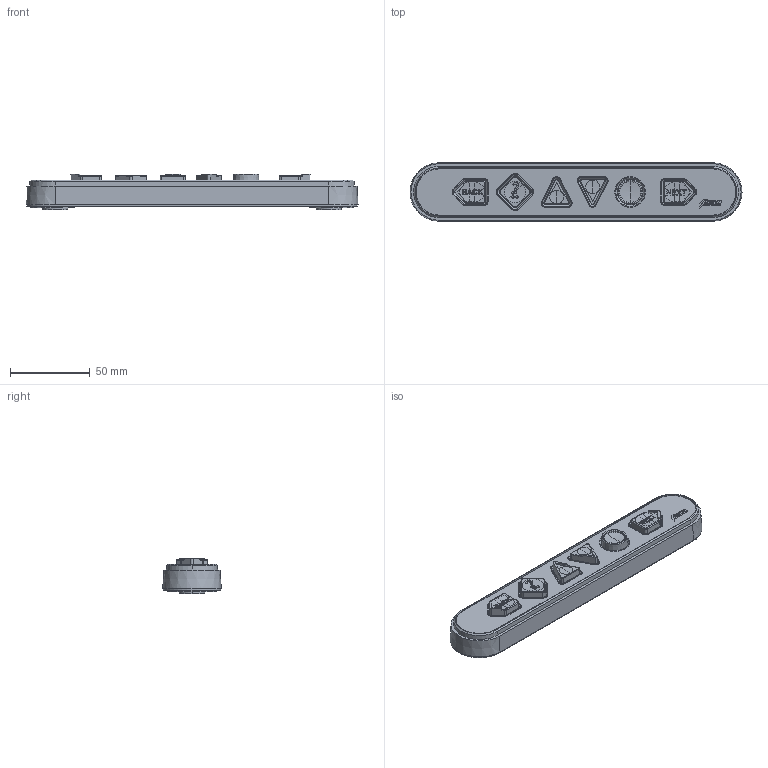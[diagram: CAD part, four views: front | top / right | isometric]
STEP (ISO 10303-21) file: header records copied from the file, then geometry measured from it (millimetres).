
FILE_DESCRIPTION (( 'STEP AP214' ), '1' );
FILE_NAME ('EZB6-43000~1.STEP', '2016-09-30T10:02:13', ( '' ), ( '' ), 'SwSTEP 2.0', 'SolidWorks 2016', '' );
FILE_SCHEMA (( 'AUTOMOTIVE_DESIGN' ));
Length unit declared in the file: millimetre
Products named in the file (1): EZB6-43000~1
Bounding box: 207.6 x 36.6 x 22.51 mm (x, y, z)
Surface area: 43046.6 mm2 (no closed solid volume)
Topology: 0 solids, 32 shells, 869 faces, 3114 edges, 2286 vertices
Faces by surface type: plane 441, cone 193, bspline 110, cylinder 76, torus 28, sphere 21
Entity records: 49232 total; most frequent: CARTESIAN_POINT 13934, ORIENTED_EDGE 5026, DIRECTION 5021, EDGE_CURVE 3114, VERTEX_POINT 2286, VECTOR 1837, LINE 1837, AXIS2_PLACEMENT_3D 1592
